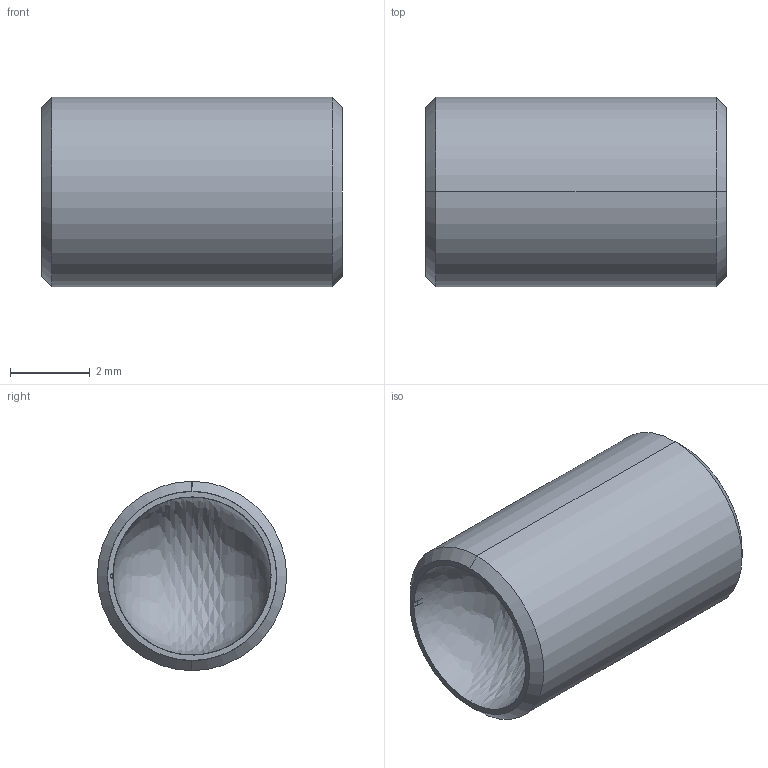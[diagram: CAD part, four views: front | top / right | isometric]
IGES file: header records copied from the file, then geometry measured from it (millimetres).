
Start section: SolidWorks IGES file using analytic representation for surfaces
Global section: file name: C:\Users\workpc\Desktop\KMA Solidworks\TS187-100 Series\TS187-100 High Vacuum\TS187-100-High Vacuum SLDPRT\TS187-100-375-AA-HV.IGS; native system: SolidWorks 2013; preprocessor: SolidWorks 2013; author: workpc; date: 130509.082510; units: inch
Bounding box: 7.54 x 4.75 x 4.75 mm (x, y, z)
Surface area: 236.6 mm2 (no closed solid volume)
Topology: 0 solids, 0 shells, 28 faces, 261 edges, 258 vertices
Faces by surface type: revolution 17, bspline 11
